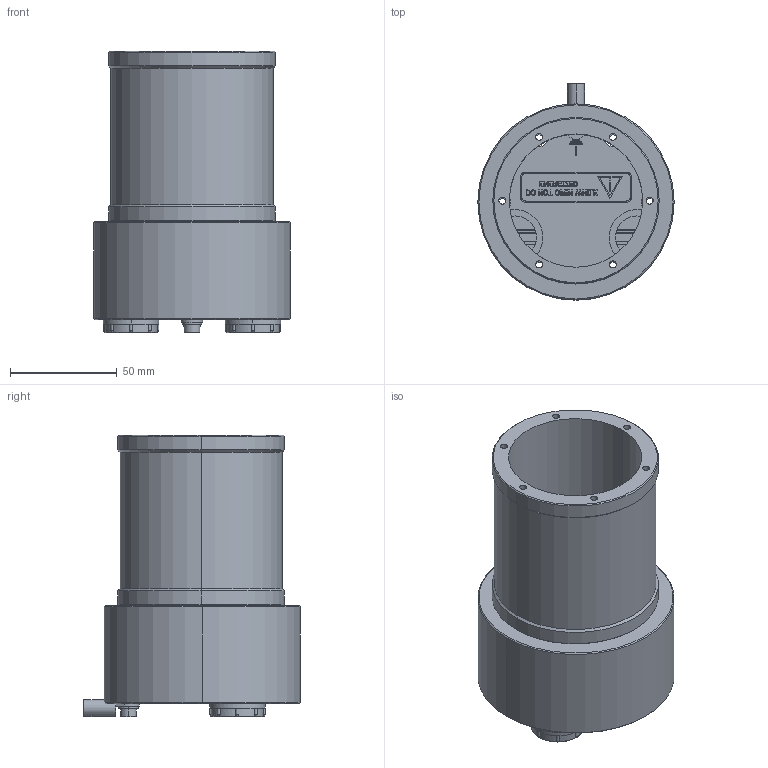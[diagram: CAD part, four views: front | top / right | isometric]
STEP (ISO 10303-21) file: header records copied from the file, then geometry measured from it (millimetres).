
FILE_DESCRIPTION (( 'STEP AP214' ), '1' );
FILE_NAME ('drawing-oc-7-at-800-aem-hccnnn-y-hfg-n.STEP', '2019-10-28T09:52:52', ( '' ), ( '' ), 'SwSTEP 2.0', 'SolidWorks 2019', '' );
FILE_SCHEMA (( 'AUTOMOTIVE_DESIGN' ));
Length unit declared in the file: millimetre
Products named in the file (2): drawing-oc-7-at-800-aem-hccnnn-y-hfg-n
Bounding box: 92 x 101.49 x 132.2 mm (x, y, z)
Surface area: 66265.6 mm2 (no closed solid volume)
Topology: 0 solids, 16 shells, 419 faces, 1565 edges, 1124 vertices
Faces by surface type: plane 204, cylinder 121, bspline 56, cone 38
Entity records: 22149 total; most frequent: CARTESIAN_POINT 5090, ORIENTED_EDGE 2388, DIRECTION 2349, EDGE_CURVE 1545, VERTEX_POINT 1124, VECTOR 935, LINE 935, AXIS2_PLACEMENT_3D 707
